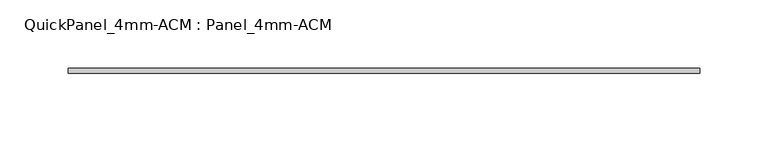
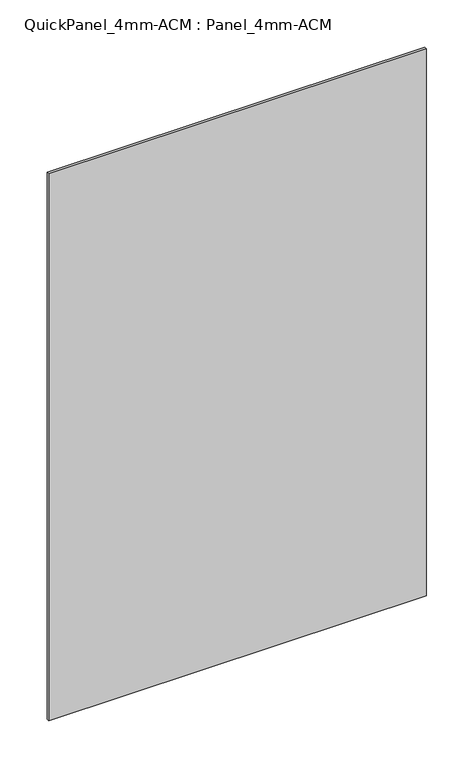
"""IFC4 building model written with IfcOpenShell, lengths in millimetres: plate geometry, QuickPanel_4mm-ACM : Panel_4mm-ACM."""

from ifc_helpers import new_model, si_unit, origin, origin_with_axes, place, context, project, spatial, polyline, outline, extrude, source, transform, mapped, element, save


def quickpanel_4mm_acm_panel_4mm_acm_bf85fa8f(model_context):
    return source(origin(), model_context, "Body", "SweptSolid", [
        extrude(outline(polyline([(-231.83849, 6.096), (-231.83849, 9.906), (231.83849, 9.906), (231.83849, 6.096), (-231.83849, 6.096)])), origin_with_axes(), (0.0, 0.0, 1.0), 710.1039948),
    ])


if __name__ == "__main__":
    model = new_model("IFC4")
    model_context = context("Model", 3, world=origin())
    ifc_project = project(units=[si_unit("LENGTHUNIT", "METRE", prefix="MILLI")], contexts=[model_context])
    site = spatial("IfcSite", under=ifc_project)
    building = spatial("IfcBuilding", under=site)
    placement = place(None, origin())
    quickpanel_4mm_acm_panel_4mm_acm_shape = quickpanel_4mm_acm_panel_4mm_acm_bf85fa8f(model_context)
    element("IfcPlate", 1, ObjectType="QuickPanel_4mm-ACM : Panel_4mm-ACM", at=placement, inside=building, context=model_context, shape_type="MappedRepresentation", body=[
        mapped(quickpanel_4mm_acm_panel_4mm_acm_shape, transform((0.0, 0.0, 0.0), x_axis=(1.0, 0.0, 0.0), y_axis=(0.0, 1.0, 0.0), z_axis=(0.0, 0.0, 1.0))),
    ])
    save(model, "model.ifc")
